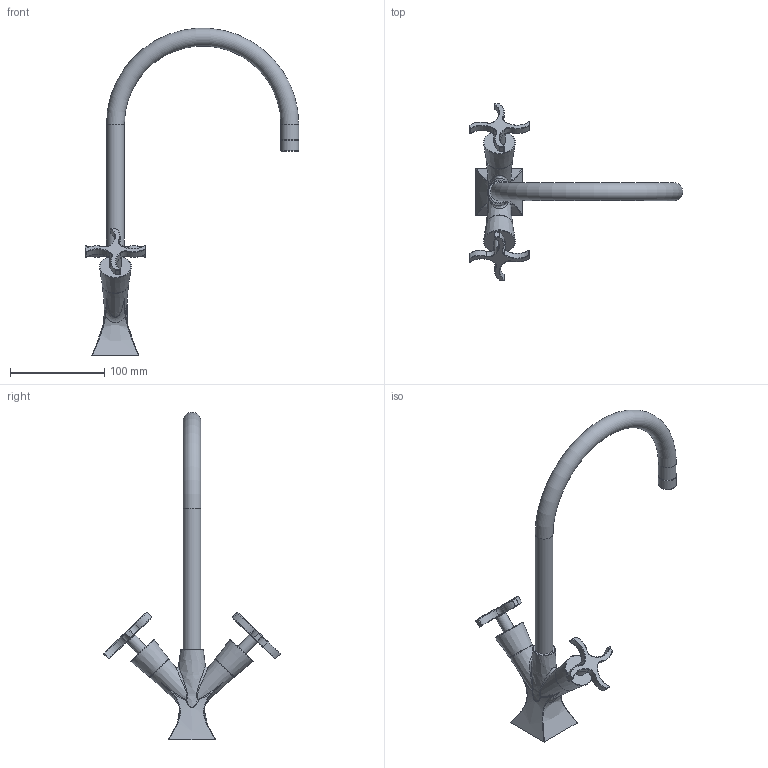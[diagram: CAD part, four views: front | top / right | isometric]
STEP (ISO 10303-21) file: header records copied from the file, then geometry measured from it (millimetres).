
FILE_DESCRIPTION(('STEP AP242'), '1');
FILE_NAME('85CR572KM', '', ('UNSPECIFIED'), ('UNSPECIFIED'), 'ASCON STEP Converter 1.6', 'ASCON Math Kernel', '');
FILE_SCHEMA(('AP242_MANAGED_MODEL_BASED_3D_ENGINEERING_MIM_LF { 1 0 10303 442 1 1 4 }'));
Length unit declared in the file: millimetre
Bounding box: 226.5 x 187.33 x 347.24 mm (x, y, z)
Volume: 300577.4 mm3; surface area: 60147.7 mm2
Topology: 2 solids, 2 shells, 216 faces, 488 edges, 238 vertices
Faces by surface type: cylinder 65, torus 59, sphere 36, bspline 32, plane 20, cone 4
Full cylindrical faces by diameter (mm): 12 x2, 19 x3, 28 x2
Entity records: 14840 total; most frequent: CARTESIAN_POINT 8803, DIRECTION 920, ORIENTED_EDGE 838, EDGE_CURVE 419, AXIS2_PLACEMENT_3D 417, EDGE_LOOP 246, VERTEX_POINT 237, CIRCLE 232
